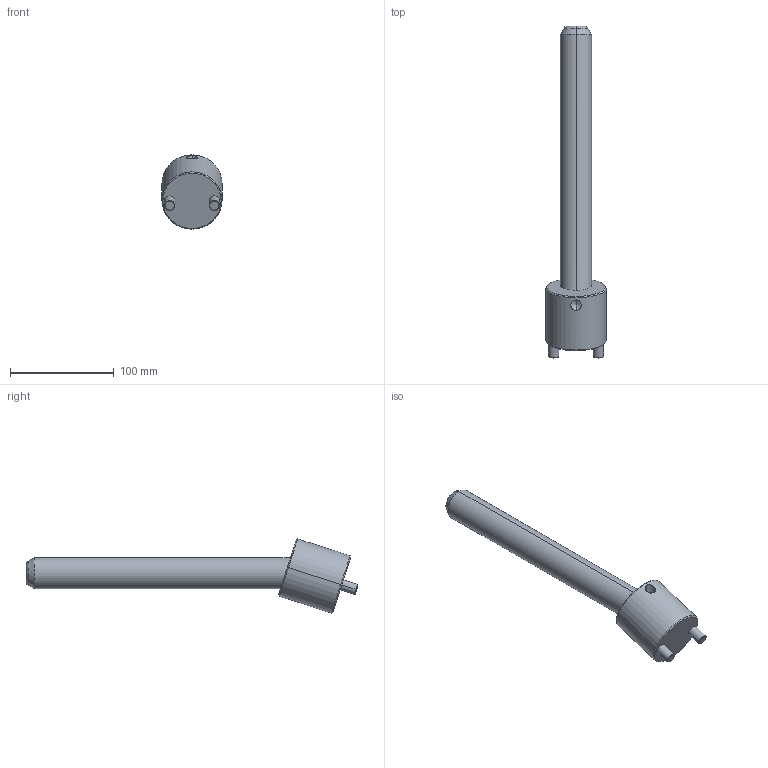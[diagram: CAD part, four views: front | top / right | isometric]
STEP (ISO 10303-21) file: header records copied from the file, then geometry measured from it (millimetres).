
FILE_DESCRIPTION(('CATIA V5 STEP Exchange'),'2;1');
FILE_NAME('C:\Users\Raffaele\Desktop\3D BOLEX\3D FILES CF BOLEX\19-INCLINED ASSEMBLY REF_CI\CI1830250.stp','2019-06-24T07:48:27+00:00',('none'),('none'),'CATIA Version 5 Release 20 GA (IN-10)','CATIA V5 STEP AP203','none');
FILE_SCHEMA(('CONFIG_CONTROL_DESIGN'));
Length unit declared in the file: millimetre
Products named in the file (1): CI1830250
Assembly tree (2 placements, depth 2):
  CI1830250
    #58
    #593
Bounding box: 58 x 319.82 x 71.54 mm (x, y, z)
Volume: 320445.9 mm3; surface area: 49612.4 mm2
Topology: 2 solids, 2 shells, 39 faces, 82 edges, 47 vertices
Faces by surface type: cone 14, cylinder 14, plane 7, torus 4
Entity records: 1566 total; most frequent: CARTESIAN_POINT 705, ORIENTED_EDGE 160, DIRECTION 146, EDGE_CURVE 80, AXIS2_PLACEMENT_3D 73, VERTEX_POINT 47, EDGE_LOOP 43, ADVANCED_FACE 39
